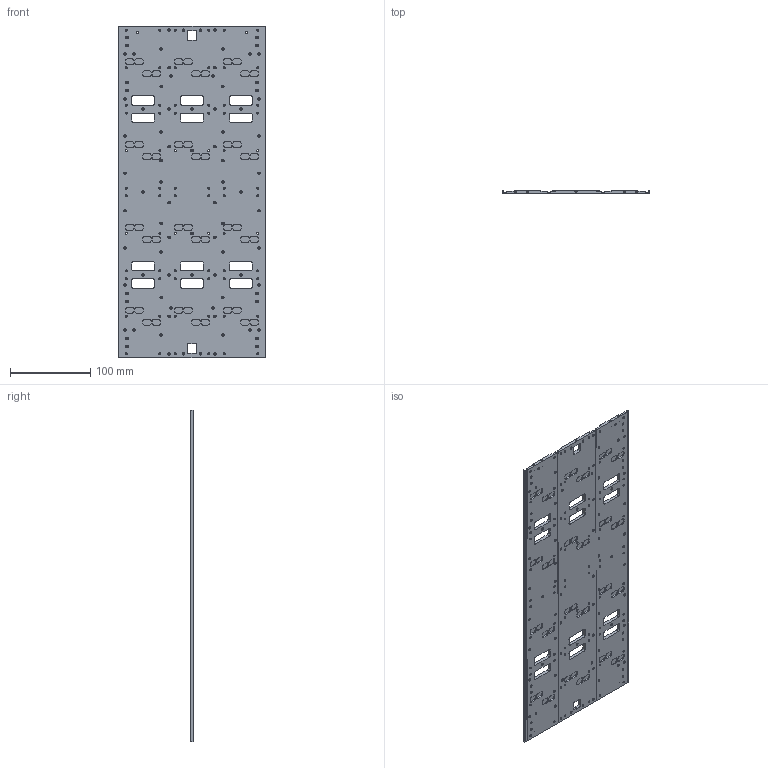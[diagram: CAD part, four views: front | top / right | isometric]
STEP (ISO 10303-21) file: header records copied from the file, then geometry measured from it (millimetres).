
FILE_DESCRIPTION(/* description */ (''),/* implementation_level */ '2;1');
FILE_NAME(/* name */ 'CMS.BTL.00000090.stp',/* time_stamp */ '2023-06-15T09:13:47+02:00',/* author */ (''),/* organization */ (''),/* preprocessor_version */ 'ST-DEVELOPER v18.102',/* originating_system */ 'SIEMENS PLM Software NX 2000',/* authorisation */ '');
FILE_SCHEMA (('AP203_CONFIGURATION_CONTROLLED_3D_DESIGN_OF_MECHANICAL_PARTS_AND_ASSEMBLIES_MIM_LF { 1 0 10303 403 2 1 2}'));
Length unit declared in the file: millimetre
Products named in the file (1): turc334C1158a8q1
Bounding box: 184 x 4 x 413.3 mm (x, y, z)
Volume: 234351.4 mm3; surface area: 166097.2 mm2
Topology: 1 solids, 1 shells, 1138 faces, 3055 edges, 2043 vertices
Faces by surface type: cylinder 524, plane 422, cone 190, torus 2
Full cylindrical faces by diameter (mm): 2.05 x94, 2.5 x78, 4 x2, 6 x72
Entity records: 33262 total; most frequent: DIRECTION 5912, CARTESIAN_POINT 5637, ORIENTED_EDGE 4900, EDGE_CURVE 2450, AXIS2_PLACEMENT_3D 2373, EDGE_LOOP 2058, VERTEX_POINT 1880, FACE_BOUND 1448
